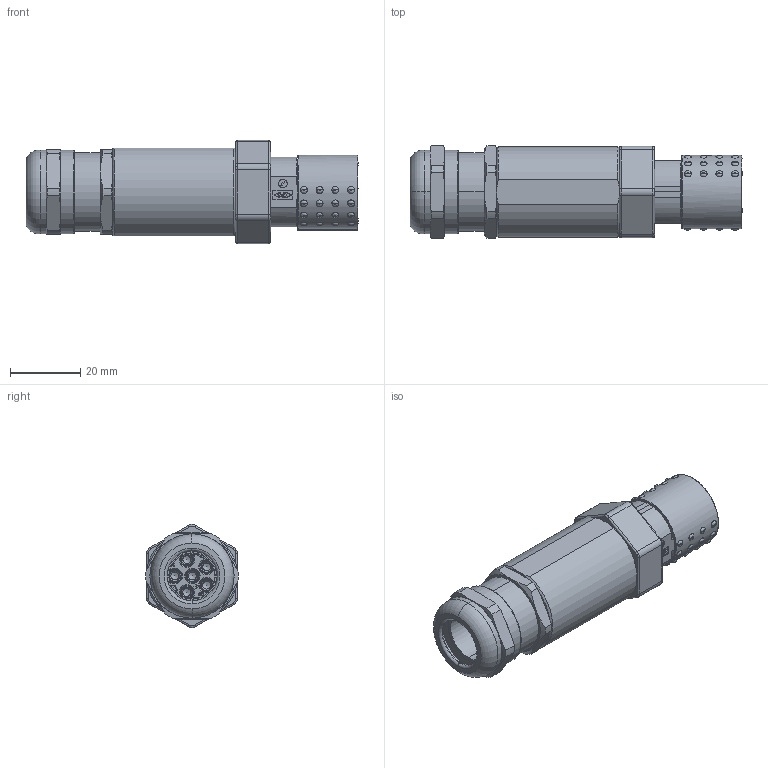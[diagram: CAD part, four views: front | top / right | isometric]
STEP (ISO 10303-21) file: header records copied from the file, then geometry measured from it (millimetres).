
FILE_DESCRIPTION (( 'STEP AP203' ), '1' );
FILE_NAME ('X-TEC_15M_MONTAGE-BU_STEP.STEP', '2023-09-25T13:30:59', ( '' ), ( '' ), 'SwSTEP 2.0', 'SolidWorks 2021', '' );
FILE_SCHEMA (( 'CONFIG_CONTROL_DESIGN' ));
Length unit declared in the file: millimetre
Products named in the file (1): X-TEC_15M_MONTAGE-BU_STEP
Bounding box: 94.62 x 26.49 x 29.4 mm (x, y, z)
Volume: 24901.9 mm3; surface area: 31777.9 mm2
Topology: 18 solids, 28 shells, 1948 faces, 5167 edges, 3394 vertices
Faces by surface type: plane 957, cylinder 458, bspline 371, cone 113, torus 43, sphere 6
Full cylindrical faces by diameter (mm): 0.8 x6, 1.6 x12, 2.25 x6, 2.453 x1, 2.5 x12, 2.6 x7, 3.12 x6, 3.3 x6, 3.5 x12, 3.6 x6, 4 x6, 4.2 x3, 4.6 x4, 4.7 x4, 15.4 x1, 15.5 x1, 15.63 x1, 16 x1, 16.07 x1, 16.8 x1, 16.9 x1, 18 x1, 18.4 x1, 20.5 x2, 21 x1, 23.8 x1
Entity records: 122413 total; most frequent: CARTESIAN_POINT 78956, ORIENTED_EDGE 9740, DIRECTION 7610, EDGE_CURVE 4870, VERTEX_POINT 3280, AXIS2_PLACEMENT_3D 2671, EDGE_LOOP 2306, VECTOR 2268
